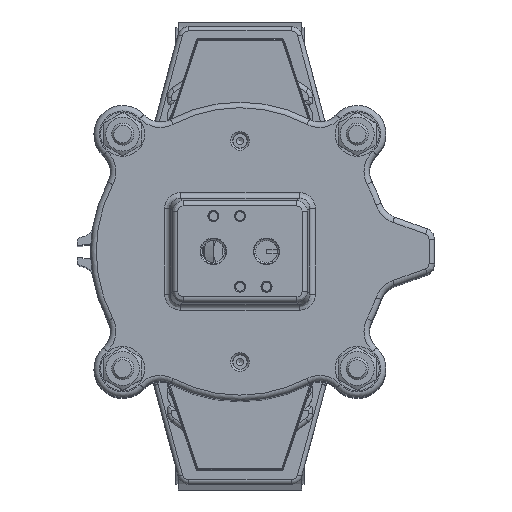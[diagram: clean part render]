
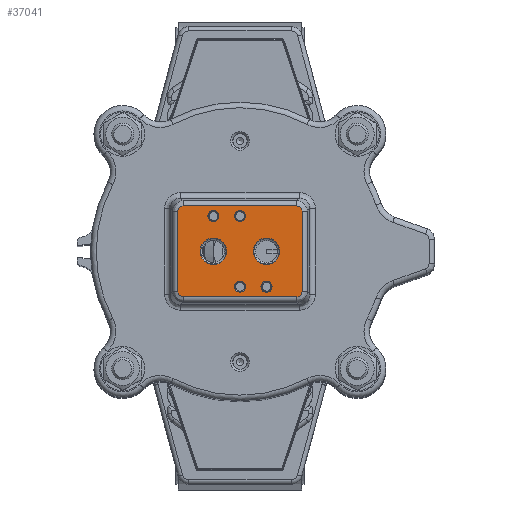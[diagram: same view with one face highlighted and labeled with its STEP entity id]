
A CAD part, top view. The second image highlights one B-rep face of the part: STEP entity #37041.
In plain terms, the highlighted planar face has unit normal (0, 0, 1).
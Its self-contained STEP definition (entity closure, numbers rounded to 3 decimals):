
#1096=ELLIPSE('',#40826,2.673,2.5);
#1097=ELLIPSE('',#40827,2.673,2.5);
#1098=ELLIPSE('',#40828,2.673,2.5);
#1099=ELLIPSE('',#40829,2.673,2.5);
#1644=PLANE('',#40825);
#3660=LINE('',#66996,#5660);
#3661=LINE('',#67000,#5661);
#3662=LINE('',#67004,#5662);
#3663=LINE('',#67007,#5663);
#5660=VECTOR('',#49475,10.);
#5661=VECTOR('',#49478,10.);
#5662=VECTOR('',#49481,10.);
#5663=VECTOR('',#49484,10.);
#7543=FACE_BOUND('',#11789,.T.);
#7544=FACE_BOUND('',#11790,.T.);
#7545=FACE_BOUND('',#11791,.T.);
#7546=FACE_BOUND('',#11792,.T.);
#7547=FACE_BOUND('',#11793,.T.);
#7548=FACE_BOUND('',#11794,.T.);
#9138=FACE_OUTER_BOUND('',#11788,.T.);
#11788=EDGE_LOOP('',(#30589,#30590,#30591,#30592,#30593,#30594,#30595,#30596));
#11789=EDGE_LOOP('',(#30597));
#11790=EDGE_LOOP('',(#30598));
#11791=EDGE_LOOP('',(#30599));
#11792=EDGE_LOOP('',(#30600));
#11793=EDGE_LOOP('',(#30601));
#11794=EDGE_LOOP('',(#30602));
#14523=CIRCLE('',#40824,2.5);
#14524=CIRCLE('',#40830,2.5);
#14525=CIRCLE('',#40831,2.5);
#14526=CIRCLE('',#40832,6.);
#14527=CIRCLE('',#40833,6.);
#14528=CIRCLE('',#40834,2.5);
#17577=VERTEX_POINT('',#66989);
#17578=VERTEX_POINT('',#66992);
#17579=VERTEX_POINT('',#66993);
#17580=VERTEX_POINT('',#66995);
#17581=VERTEX_POINT('',#66997);
#17582=VERTEX_POINT('',#66999);
#17583=VERTEX_POINT('',#67001);
#17584=VERTEX_POINT('',#67003);
#17585=VERTEX_POINT('',#67005);
#17586=VERTEX_POINT('',#67008);
#17587=VERTEX_POINT('',#67010);
#17588=VERTEX_POINT('',#67012);
#17589=VERTEX_POINT('',#67014);
#17590=VERTEX_POINT('',#67016);
#22177=EDGE_CURVE('',#17577,#17577,#14523,.T.);
#22178=EDGE_CURVE('',#17578,#17579,#1096,.T.);
#22179=EDGE_CURVE('',#17580,#17578,#3660,.T.);
#22180=EDGE_CURVE('',#17581,#17580,#1097,.T.);
#22181=EDGE_CURVE('',#17582,#17581,#3661,.T.);
#22182=EDGE_CURVE('',#17583,#17582,#1098,.T.);
#22183=EDGE_CURVE('',#17584,#17583,#3662,.T.);
#22184=EDGE_CURVE('',#17585,#17584,#1099,.T.);
#22185=EDGE_CURVE('',#17579,#17585,#3663,.T.);
#22186=EDGE_CURVE('',#17586,#17586,#14524,.T.);
#22187=EDGE_CURVE('',#17587,#17587,#14525,.T.);
#22188=EDGE_CURVE('',#17588,#17588,#14526,.T.);
#22189=EDGE_CURVE('',#17589,#17589,#14527,.T.);
#22190=EDGE_CURVE('',#17590,#17590,#14528,.T.);
#30589=ORIENTED_EDGE('',*,*,#22178,.F.);
#30590=ORIENTED_EDGE('',*,*,#22179,.F.);
#30591=ORIENTED_EDGE('',*,*,#22180,.F.);
#30592=ORIENTED_EDGE('',*,*,#22181,.F.);
#30593=ORIENTED_EDGE('',*,*,#22182,.F.);
#30594=ORIENTED_EDGE('',*,*,#22183,.F.);
#30595=ORIENTED_EDGE('',*,*,#22184,.F.);
#30596=ORIENTED_EDGE('',*,*,#22185,.F.);
#30597=ORIENTED_EDGE('',*,*,#22186,.F.);
#30598=ORIENTED_EDGE('',*,*,#22187,.F.);
#30599=ORIENTED_EDGE('',*,*,#22188,.F.);
#30600=ORIENTED_EDGE('',*,*,#22189,.F.);
#30601=ORIENTED_EDGE('',*,*,#22190,.F.);
#30602=ORIENTED_EDGE('',*,*,#22177,.F.);
#37041=ADVANCED_FACE('',(#9138,#7543,#7544,#7545,#7546,#7547,#7548),#1644,
 .F.);
#40824=AXIS2_PLACEMENT_3D('',#66990,#49469,#49470);
#40825=AXIS2_PLACEMENT_3D('',#66991,#49471,#49472);
#40826=AXIS2_PLACEMENT_3D('',#66994,#49473,#49474);
#40827=AXIS2_PLACEMENT_3D('',#66998,#49476,#49477);
#40828=AXIS2_PLACEMENT_3D('',#67002,#49479,#49480);
#40829=AXIS2_PLACEMENT_3D('',#67006,#49482,#49483);
#40830=AXIS2_PLACEMENT_3D('',#67009,#49485,#49486);
#40831=AXIS2_PLACEMENT_3D('',#67011,#49487,#49488);
#40832=AXIS2_PLACEMENT_3D('',#67013,#49489,#49490);
#40833=AXIS2_PLACEMENT_3D('',#67015,#49491,#49492);
#40834=AXIS2_PLACEMENT_3D('',#67017,#49493,#49494);
#49469=DIRECTION('center_axis',(0.,0.,
1.));
#49470=DIRECTION('ref_axis',(-1.,0.,0.));
#49471=DIRECTION('center_axis',(0.,0.,
-1.));
#49472=DIRECTION('ref_axis',(-1.,0.,0.));
#49473=DIRECTION('center_axis',(0.,0.,
-1.));
#49474=DIRECTION('ref_axis',(-0.707,-0.707,0.));
#49475=DIRECTION('',(-1.,0.,0.));
#49476=DIRECTION('center_axis',(0.,0.,
-1.));
#49477=DIRECTION('ref_axis',(0.707,-0.707,0.));
#49478=DIRECTION('',(0.,-1.,0.));
#49479=DIRECTION('center_axis',(0.,0.,
-1.));
#49480=DIRECTION('ref_axis',(0.707,0.707,0.));
#49481=DIRECTION('',(1.,0.,0.));
#49482=DIRECTION('center_axis',(0.,0.,
-1.));
#49483=DIRECTION('ref_axis',(-0.707,0.707,0.));
#49484=DIRECTION('',(0.,1.,0.));
#49485=DIRECTION('center_axis',(0.,0.,
1.));
#49486=DIRECTION('ref_axis',(-1.,0.,0.));
#49487=DIRECTION('center_axis',(0.,0.,
1.));
#49488=DIRECTION('ref_axis',(-1.,0.,0.));
#49489=DIRECTION('center_axis',(0.,0.,
1.));
#49490=DIRECTION('ref_axis',(-1.,0.,0.));
#49491=DIRECTION('center_axis',(0.,0.,
1.));
#49492=DIRECTION('ref_axis',(-1.,0.,0.));
#49493=DIRECTION('center_axis',(0.,0.,
1.));
#49494=DIRECTION('ref_axis',(-1.,0.,0.));
#66989=CARTESIAN_POINT('',(-9.5,16.733,777.5));
#66990=CARTESIAN_POINT('Origin',(-12.,16.733,777.5));
#66991=CARTESIAN_POINT('Origin',(0.,0.733,
777.5));
#66992=CARTESIAN_POINT('',(-25.667,-19.848,777.5));
#66993=CARTESIAN_POINT('',(-28.082,-17.434,777.5));
#66994=CARTESIAN_POINT('Origin',(-25.493,-17.26,777.5));
#66995=CARTESIAN_POINT('',(25.667,-19.848,777.5));
#66996=CARTESIAN_POINT('',(-15.,-19.848,777.5));
#66997=CARTESIAN_POINT('',(28.082,-17.434,777.5));
#66998=CARTESIAN_POINT('Origin',(25.493,-17.26,777.5));
#66999=CARTESIAN_POINT('',(28.082,18.9,777.5));
#67000=CARTESIAN_POINT('',(28.082,-10.517,777.5));
#67001=CARTESIAN_POINT('',(25.667,21.315,777.5));
#67002=CARTESIAN_POINT('Origin',(25.493,18.727,777.5));
#67003=CARTESIAN_POINT('',(-25.667,21.315,777.5));
#67004=CARTESIAN_POINT('',(15.,21.315,777.5));
#67005=CARTESIAN_POINT('',(-28.082,18.9,777.5));
#67006=CARTESIAN_POINT('Origin',(-25.493,18.727,777.5));
#67007=CARTESIAN_POINT('',(-28.082,11.983,777.5));
#67008=CARTESIAN_POINT('',(2.5,16.733,777.5));
#67009=CARTESIAN_POINT('Origin',(0.,16.733,
777.5));
#67010=CARTESIAN_POINT('',(14.5,-15.267,777.5));
#67011=CARTESIAN_POINT('Origin',(12.,-15.267,777.5));
#67012=CARTESIAN_POINT('',(18.,0.733,777.5));
#67013=CARTESIAN_POINT('Origin',(12.,0.733,777.5));
#67014=CARTESIAN_POINT('',(-6.,0.733,777.5));
#67015=CARTESIAN_POINT('Origin',(-12.,0.733,777.5));
#67016=CARTESIAN_POINT('',(2.5,-15.267,777.5));
#67017=CARTESIAN_POINT('Origin',(0.,-15.267,
777.5));
